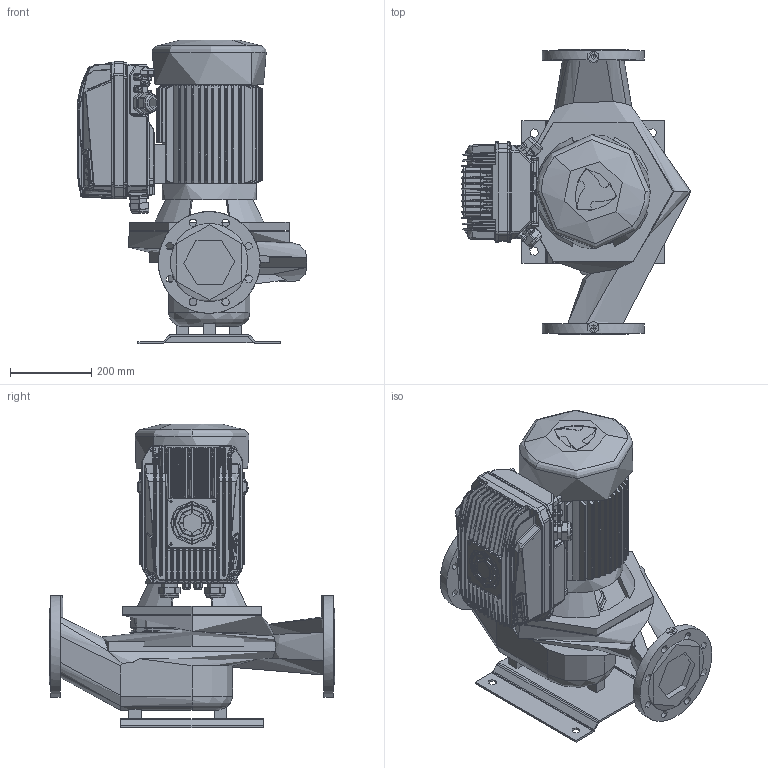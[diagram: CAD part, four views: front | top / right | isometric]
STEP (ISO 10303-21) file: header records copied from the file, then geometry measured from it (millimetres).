
FILE_DESCRIPTION(('STEP AP214'),'1');
FILE_NAME('export.stp','2022-09-07T07:24:12',(' '),(' '),'Spatial InterOp 3D',' ',' ');
FILE_SCHEMA(('AUTOMOTIVE_DESIGN { 1 0 10303 214 1 1 1 1 }'));
Length unit declared in the file: millimetre
Products named in the file (13): P100496; P100495; P100342; W_AL11294MDKP133; V_PPAL1129; Mida_414-418; V_MOKN133; RU_OKN_133; TSUOJA_OKN_132_133; KYTKOTELO_OKN_100_133; V_MKP133-G2-F31; V_EKF31OKN132133; V_TL110611291154
Assembly tree (13 placements, depth 4):
  W_AL11294MDKP133
    P100496
      P100495  x2
      P100342
    V_PPAL1129
    Mida_414-418
    V_MKP133-G2-F31
      V_MOKN133
        RU_OKN_133
        TSUOJA_OKN_132_133
        KYTKOTELO_OKN_100_133
      V_EKF31OKN132133
    V_TL110611291154
Bounding box: 564.7 x 700 x 746 mm (x, y, z)
Topology: 56 solids, 62 shells, 6085 faces, 15333 edges, 9289 vertices
Faces by surface type: cylinder 2224, plane 1942, bspline 1180, cone 438, torus 256, sphere 45
Entity records: 498450 total; most frequent: CARTESIAN_POINT 311120, ORIENTED_EDGE 30075, DIRECTION 23480, EDGE_CURVE 15046, VERTEX_POINT 9278, AXIS2_PLACEMENT_3D 8591, STYLED_ITEM 7389, PRESENTATION_STYLE_ASSIGNMENT 7389
